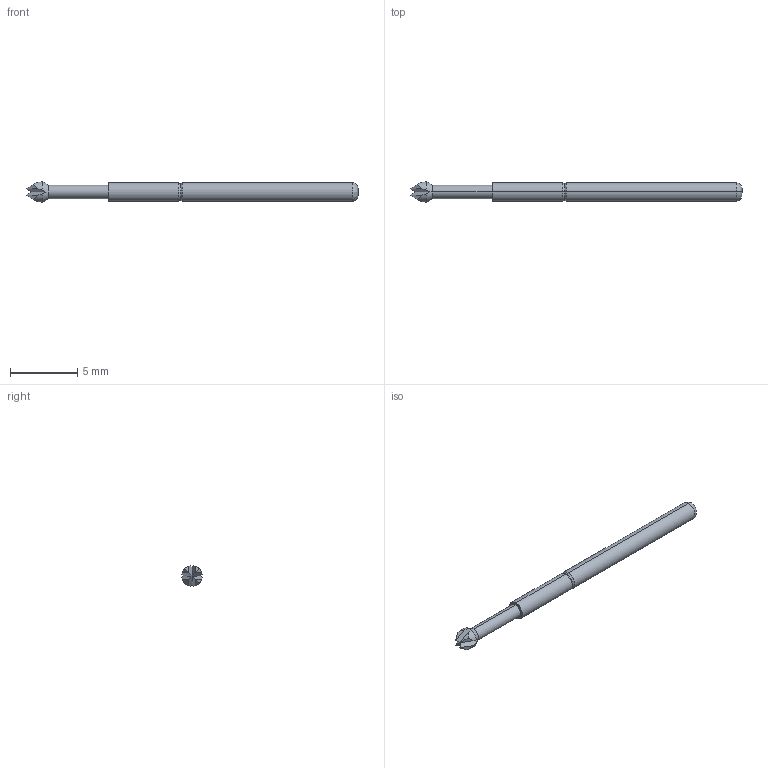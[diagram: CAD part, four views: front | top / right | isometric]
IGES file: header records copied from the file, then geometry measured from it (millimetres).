
Start section: SolidWorks IGES file using analytic representation for surfaces
Global section: file name: Z:\probe solid model mockups\Solidworks models\IGES Files\EPA-2\EPA-2X.IGS; native system: SolidWorks 2006 by SolidWorks Corporation; preprocessor: SolidWorks 2006 by SolidWorks Corporation; author: tsakatani; date: 071220.162517; units: inch
Bounding box: 24.64 x 1.5 x 1.5 mm (x, y, z)
Surface area: 104.5 mm2 (no closed solid volume)
Topology: 0 solids, 0 shells, 36 faces, 214 edges, 214 vertices
Faces by surface type: bspline 24, revolution 12
